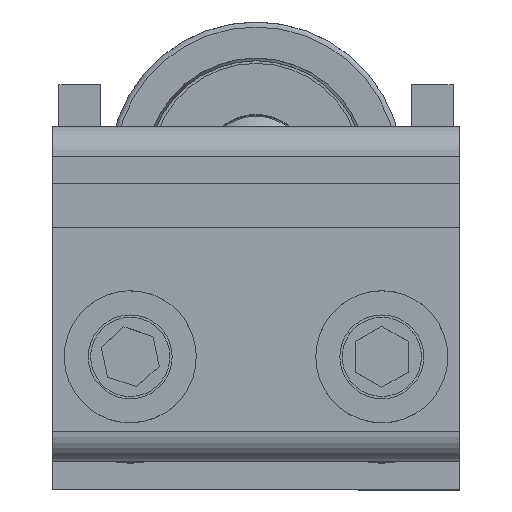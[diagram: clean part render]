
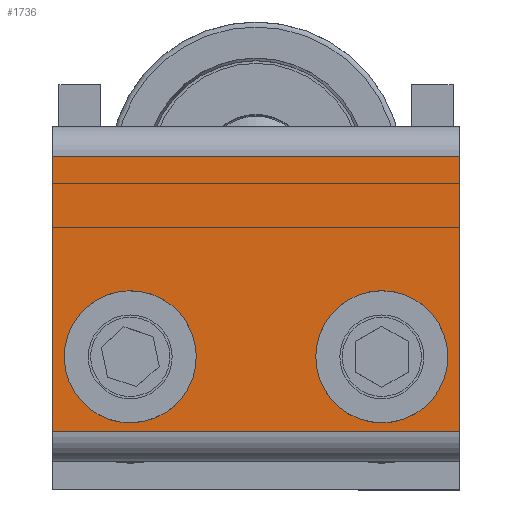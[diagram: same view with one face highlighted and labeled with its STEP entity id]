
A CAD part, top view. The second image highlights one B-rep face of the part: STEP entity #1736.
In plain terms, the highlighted planar face has unit normal (0, 0, 1) as drawn and (0, 0, -1) by its records, which use the part's own axes.
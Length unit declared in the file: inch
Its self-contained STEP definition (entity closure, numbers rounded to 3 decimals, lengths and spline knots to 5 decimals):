
#1442=DIRECTION('',(0.,-1.,0.));
#1443=VECTOR('',#1442,0.82);
#1444=CARTESIAN_POINT('',(-0.6075,0.41,-0.18));
#1445=LINE('',#1444,#1443);
#1468=DIRECTION('',(0.,-1.,0.));
#1469=VECTOR('',#1468,0.82);
#1470=CARTESIAN_POINT('',(0.6075,0.41,-0.18));
#1471=LINE('',#1470,#1469);
#1472=CARTESIAN_POINT('',(0.375,-0.188,-0.18));
#1473=DIRECTION('',(0.,0.,1.));
#1474=DIRECTION('',(1.,0.,0.));
#1475=AXIS2_PLACEMENT_3D('',#1472,#1473,#1474);
#1477=CARTESIAN_POINT('',(0.375,-0.188,-0.18));
#1478=DIRECTION('',(0.,0.,1.));
#1479=DIRECTION('',(-1.,0.,0.));
#1480=AXIS2_PLACEMENT_3D('',#1477,#1478,#1479);
#1482=CARTESIAN_POINT('',(-0.375,-0.188,-0.18));
#1483=DIRECTION('',(0.,0.,1.));
#1484=DIRECTION('',(1.,0.,0.));
#1485=AXIS2_PLACEMENT_3D('',#1482,#1483,#1484);
#1487=CARTESIAN_POINT('',(-0.375,-0.188,-0.18));
#1488=DIRECTION('',(0.,0.,1.));
#1489=DIRECTION('',(-1.,0.,0.));
#1490=AXIS2_PLACEMENT_3D('',#1487,#1488,#1489);
#1496=DIRECTION('',(-1.,0.,0.));
#1497=VECTOR('',#1496,1.215);
#1498=CARTESIAN_POINT('',(0.6075,0.41,-0.18));
#1499=LINE('',#1498,#1497);
#1536=DIRECTION('',(1.,0.,0.));
#1537=VECTOR('',#1536,1.215);
#1538=CARTESIAN_POINT('',(-0.6075,-0.41,-0.18));
#1539=LINE('',#1538,#1537);
#1560=CARTESIAN_POINT('',(-0.5,-0.188,-0.18));
#1561=CARTESIAN_POINT('',(-0.25,-0.188,-0.18));
#1562=VERTEX_POINT('',#1560);
#1563=VERTEX_POINT('',#1561);
#1574=CARTESIAN_POINT('',(-0.6075,-0.41,-0.18));
#1575=CARTESIAN_POINT('',(0.6075,-0.41,-0.18));
#1576=VERTEX_POINT('',#1574);
#1577=VERTEX_POINT('',#1575);
#1586=CARTESIAN_POINT('',(0.6075,0.41,-0.18));
#1587=VERTEX_POINT('',#1586);
#1600=CARTESIAN_POINT('',(-0.6075,0.41,-0.18));
#1601=VERTEX_POINT('',#1600);
#1612=CARTESIAN_POINT('',(0.5,-0.188,-0.18));
#1613=VERTEX_POINT('',#1612);
#1614=CARTESIAN_POINT('',(0.25,-0.188,-0.18));
#1615=VERTEX_POINT('',#1614);
#1711=CARTESIAN_POINT('',(0.6075,0.5,-0.18));
#1712=DIRECTION('',(0.,0.,1.));
#1713=DIRECTION('',(0.,-1.,0.));
#1714=AXIS2_PLACEMENT_3D('',#1711,#1712,#1713);
#1715=PLANE('',#1714);
#1716=ORIENTED_EDGE('',*,*,#1664,.F.);
#1718=ORIENTED_EDGE('',*,*,#1717,.T.);
#1719=ORIENTED_EDGE('',*,*,#1690,.T.);
#1721=ORIENTED_EDGE('',*,*,#1720,.T.);
#1722=EDGE_LOOP('',(#1716,#1718,#1719,#1721));
#1723=FACE_OUTER_BOUND('',#1722,.F.);
#1725=ORIENTED_EDGE('',*,*,#1724,.F.);
#1727=ORIENTED_EDGE('',*,*,#1726,.F.);
#1728=EDGE_LOOP('',(#1725,#1727));
#1729=FACE_BOUND('',#1728,.F.);
#1731=ORIENTED_EDGE('',*,*,#1730,.F.);
#1733=ORIENTED_EDGE('',*,*,#1732,.F.);
#1734=EDGE_LOOP('',(#1731,#1733));
#1735=FACE_BOUND('',#1734,.F.);
#1476=CIRCLE('',#1475,0.125);
#1481=CIRCLE('',#1480,0.125);
#1486=CIRCLE('',#1485,0.125);
#1491=CIRCLE('',#1490,0.125);
#1664=EDGE_CURVE('',#1587,#1577,#1471,.T.);
#1690=EDGE_CURVE('',#1601,#1576,#1445,.T.);
#1717=EDGE_CURVE('',#1587,#1601,#1499,.T.);
#1720=EDGE_CURVE('',#1576,#1577,#1539,.T.);
#1724=EDGE_CURVE('',#1613,#1615,#1476,.T.);
#1726=EDGE_CURVE('',#1615,#1613,#1481,.T.);
#1730=EDGE_CURVE('',#1563,#1562,#1486,.T.);
#1732=EDGE_CURVE('',#1562,#1563,#1491,.T.);
#1736=ADVANCED_FACE('',(#1723,#1729,#1735),#1715,.F.);
